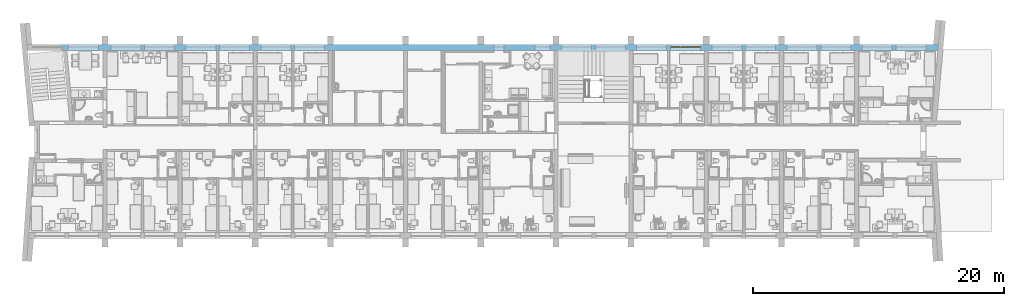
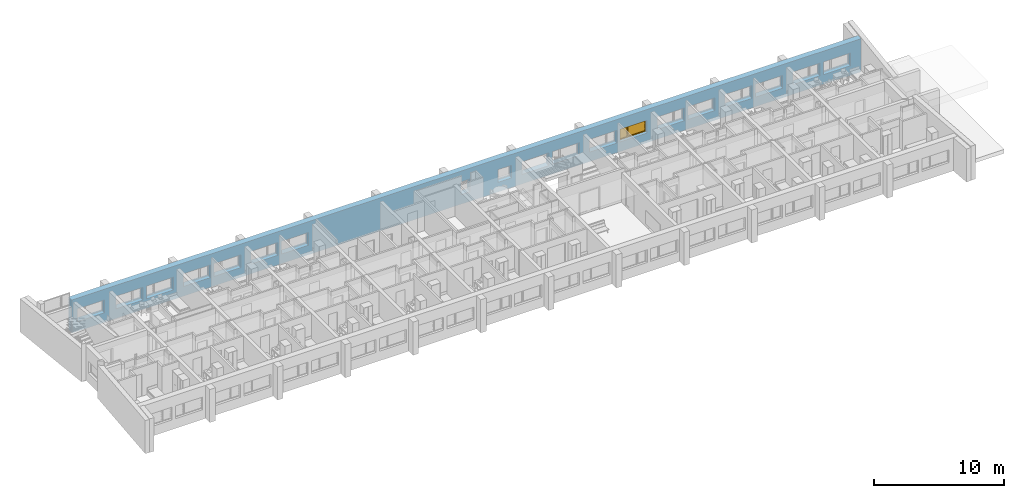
# One storey, part 25 of 172: 1 window, 19 openings, plus 1 element that does not belong to this part.
"""IFC2X3 building model written with IfcOpenShell, lengths in millimetres."""

from ifc_helpers import new_model, entity, si_unit, converted_unit, money_unit, direction, frame, origin_with_axes, place, context, subcontext, project, spatial, polyline, outline, extrude, open_shell, faceted_brep, surface_model, source, transform, mapped, material, material_list, layer, layer_set, layer_usage, type_object, element, fill, save


model = new_model("IFC2X3")

# Units and contexts
model_context = context("Model", 3, precision=1e-05, world=origin_with_axes(), true_north=direction((0.0, 1.0)))
body_context = subcontext(model_context, "Body", "Model", "MODEL_VIEW")
ifc_project = project(units=[si_unit("LENGTHUNIT", "METRE", prefix="MILLI"), si_unit("AREAUNIT", "SQUARE_METRE"), si_unit("VOLUMEUNIT", "CUBIC_METRE"), converted_unit("PLANEANGLEUNIT", "DEGREE", entity("IfcPlaneAngleMeasure", 0.0174532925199), si_unit("PLANEANGLEUNIT", "RADIAN"), dimensions=[0, 0, 0, 0, 0, 0, 0]), si_unit("SOLIDANGLEUNIT", "STERADIAN"), money_unit("USD"), converted_unit("TIMEUNIT", "Year", entity("IfcTimeMeasure", 31556926.0), si_unit("TIMEUNIT", "SECOND"), dimensions=[0, 0, 0, 0, 0, 0, 0]), si_unit("MASSUNIT", "GRAM"), si_unit("THERMODYNAMICTEMPERATUREUNIT", "DEGREE_CELSIUS"), si_unit("LUMINOUSINTENSITYUNIT", "LUMEN")], contexts=[model_context])

# Site, building, storey
site_placement = place(None, origin_with_axes())
site = spatial("IfcSite", under=ifc_project, at=site_placement, Name="Site", CompositionType="ELEMENT")
building_placement = place(site_placement, origin_with_axes())
building = spatial("IfcBuilding", under=site, at=building_placement, Name="Building", CompositionType="ELEMENT")
storey_placement = place(building_placement, frame((0.0, 0.0, 3200.0), z_axis=(0.0, 0.0, 1.0), x_axis=(1.0, 0.0, 0.0)))
storey = spatial("IfcBuildingStorey", under=building, at=storey_placement, Name="3KORRUS", CompositionType="ELEMENT", Elevation=3200.0)

# Wall, openings, window
ifc_material_1 = material(Name="Olemasolevad seinad tellis, uus viimistlus")
ifc_layer = layer(ifc_material_1, 500.0, ventilated="UNKNOWN")
ifc_layer_set = layer_set([ifc_layer], Name="Olemasolevad seinad tellis, uus viimistlus 500")
ifc_layer_usage = layer_usage(ifc_layer_set, "AXIS2", "POSITIVE", -100.0)
wall_type = type_object("IfcWallType", Name="Olemasolevad seinad tellis, uus viimistlus 500", PredefinedType="NOTDEFINED")
wall_placement = place(storey_placement, frame((-51569.3388124, -5039.6041088, 0.0), z_axis=(0.0, 0.0, 1.0), x_axis=(1.0, 0.0, 0.0)))
wall = element("IfcWallStandardCase", 1, at=wall_placement, inside=storey, type_object=wall_type, material=ifc_layer_usage, Name="VS1", ObjectType="VS1", context=body_context, shape_type="SweptSolid", body=[
    extrude(outline(polyline([(0.0, -100.0), (69914.7195482, -100.0), (69959.6995146, 400.0), (0.0, 400.0), (0.0, -100.0)])), origin_with_axes(), (0.0, 0.0, 1.0), 3100.0),
])
opening_1_placement = place(wall_placement, frame((34879.0421091, 0.0, 900.0), z_axis=(0.0, 0.0, 1.0), x_axis=(1.0, 0.0, 0.0)))
element("IfcOpeningElement", 2, at=opening_1_placement, cuts=wall, Name="WD - 001", context=body_context, shape_type="SweptSolid", body=[
    extrude(outline(polyline([(-400.0, 1200.0), (-400.0, 0.0), (400.0, 0.0), (400.0, 1200.0), (-400.0, 1200.0)])), frame((0.0, 200.0, 0.0), z_axis=(0.0, -1.0, 0.0), x_axis=(1.0, 0.0, 0.0)), (0.0, 0.0, 1.0), 800.0),
    extrude(outline(polyline([(-400.0, 0.0), (-400.0, -1200.0), (400.0, -1200.0), (400.0, 0.0), (-400.0, 0.0)])), frame((0.0, 200.0, 0.0), z_axis=(0.0, 1.0, 0.0), x_axis=(1.0, 0.0, 0.0)), (0.0, 0.0, 1.0), 700.0),
])
opening_2_placement = place(wall_placement, frame((38352.6323068, 0.0, 900.0), z_axis=(0.0, 0.0, 1.0), x_axis=(1.0, 0.0, 0.0)))
element("IfcOpeningElement", 3, at=opening_2_placement, cuts=wall, Name="A3", context=body_context, shape_type="SweptSolid", body=[
    extrude(outline(polyline([(-600.0, 1200.0), (-600.0, 0.0), (600.0, 0.0), (600.0, 1200.0), (-600.0, 1200.0)])), frame((0.0, 200.0, 0.0), z_axis=(0.0, -1.0, 0.0), x_axis=(1.0, 0.0, 0.0)), (0.0, 0.0, 1.0), 800.0),
    extrude(outline(polyline([(-600.0, 0.0), (-600.0, -1200.0), (600.0, -1200.0), (600.0, 0.0), (-600.0, 0.0)])), frame((0.0, 200.0, 0.0), z_axis=(0.0, 1.0, 0.0), x_axis=(1.0, 0.0, 0.0)), (0.0, 0.0, 1.0), 700.0),
])
opening_3_placement = place(wall_placement, frame((1700.0, 0.0, 900.0), z_axis=(0.0, 0.0, 1.0), x_axis=(1.0, 0.0, 0.0)))
element("IfcOpeningElement", 4, at=opening_3_placement, cuts=wall, Name="A1", context=body_context, shape_type="SweptSolid", body=[
    extrude(outline(polyline([(1200.0, 1200.0), (-1200.0, 1200.0), (-1200.0, 0.0), (1200.0, 0.0), (1200.0, 1200.0)])), frame((0.0, 200.0, 0.0), z_axis=(0.0, -1.0, 0.0), x_axis=(1.0, 0.0, 0.0)), (0.0, 0.0, 1.0), 800.0),
    extrude(outline(polyline([(1200.0, 0.0), (-1200.0, 0.0), (-1200.0, -1200.0), (1200.0, -1200.0), (1200.0, 0.0)])), frame((0.0, 200.0, 0.0), z_axis=(0.0, 1.0, 0.0), x_axis=(1.0, 0.0, 0.0)), (0.0, 0.0, 1.0), 700.0),
])
opening_4_placement = place(wall_placement, frame((7795.91085613, 0.0, 900.0), z_axis=(0.0, 0.0, 1.0), x_axis=(1.0, 0.0, 0.0)))
element("IfcOpeningElement", 5, at=opening_4_placement, cuts=wall, Name="A1", context=body_context, shape_type="SweptSolid", body=[
    extrude(outline(polyline([(1200.0, 1200.0), (-1200.0, 1200.0), (-1200.0, 0.0), (1200.0, 0.0), (1200.0, 1200.0)])), frame((0.0, 200.0, 0.0), z_axis=(0.0, -1.0, 0.0), x_axis=(1.0, 0.0, 0.0)), (0.0, 0.0, 1.0), 800.0),
    extrude(outline(polyline([(1200.0, 0.0), (-1200.0, 0.0), (-1200.0, -1200.0), (1200.0, -1200.0), (1200.0, 0.0)])), frame((0.0, 200.0, 0.0), z_axis=(0.0, 1.0, 0.0), x_axis=(1.0, 0.0, 0.0)), (0.0, 0.0, 1.0), 700.0),
])
opening_5_placement = place(wall_placement, frame((5095.91085613, 0.0, 900.0), z_axis=(0.0, 0.0, 1.0), x_axis=(1.0, 0.0, 0.0)))
element("IfcOpeningElement", 6, at=opening_5_placement, cuts=wall, Name="A2", context=body_context, shape_type="SweptSolid", body=[
    extrude(outline(polyline([(-1200.0, 1200.0), (-1200.0, 0.0), (1200.0, 0.0), (1200.0, 1200.0), (-1200.0, 1200.0)])), frame((0.0, 200.0, 0.0), z_axis=(0.0, -1.0, 0.0), x_axis=(1.0, 0.0, 0.0)), (0.0, 0.0, 1.0), 800.0),
    extrude(outline(polyline([(-1200.0, 0.0), (-1200.0, -1200.0), (1200.0, -1200.0), (1200.0, 0.0), (-1200.0, 0.0)])), frame((0.0, 200.0, 0.0), z_axis=(0.0, 1.0, 0.0), x_axis=(1.0, 0.0, 0.0)), (0.0, 0.0, 1.0), 700.0),
])
opening_6_placement = place(wall_placement, frame((13779.0421091, 0.0, 900.0), z_axis=(0.0, 0.0, 1.0), x_axis=(1.0, 0.0, 0.0)))
element("IfcOpeningElement", 7, at=opening_6_placement, cuts=wall, Name="A1", context=body_context, shape_type="SweptSolid", body=[
    extrude(outline(polyline([(1200.0, 1200.0), (-1200.0, 1200.0), (-1200.0, 0.0), (1200.0, 0.0), (1200.0, 1200.0)])), frame((0.0, 200.0, 0.0), z_axis=(0.0, -1.0, 0.0), x_axis=(1.0, 0.0, 0.0)), (0.0, 0.0, 1.0), 800.0),
    extrude(outline(polyline([(1200.0, 0.0), (-1200.0, 0.0), (-1200.0, -1200.0), (1200.0, -1200.0), (1200.0, 0.0)])), frame((0.0, 200.0, 0.0), z_axis=(0.0, 1.0, 0.0), x_axis=(1.0, 0.0, 0.0)), (0.0, 0.0, 1.0), 700.0),
])
opening_7_placement = place(wall_placement, frame((11079.0421091, 0.0, 900.0), z_axis=(0.0, 0.0, 1.0), x_axis=(1.0, 0.0, 0.0)))
element("IfcOpeningElement", 8, at=opening_7_placement, cuts=wall, Name="A2", context=body_context, shape_type="SweptSolid", body=[
    extrude(outline(polyline([(-1200.0, 1200.0), (-1200.0, 0.0), (1200.0, 0.0), (1200.0, 1200.0), (-1200.0, 1200.0)])), frame((0.0, 200.0, 0.0), z_axis=(0.0, -1.0, 0.0), x_axis=(1.0, 0.0, 0.0)), (0.0, 0.0, 1.0), 800.0),
    extrude(outline(polyline([(-1200.0, 0.0), (-1200.0, -1200.0), (1200.0, -1200.0), (1200.0, 0.0), (-1200.0, 0.0)])), frame((0.0, 200.0, 0.0), z_axis=(0.0, 1.0, 0.0), x_axis=(1.0, 0.0, 0.0)), (0.0, 0.0, 1.0), 700.0),
])
opening_8_placement = place(wall_placement, frame((43769.0421091, 0.0, 900.0), z_axis=(0.0, 0.0, 1.0), x_axis=(1.0, 0.0, 0.0)))
element("IfcOpeningElement", 9, at=opening_8_placement, cuts=wall, Name="A1", context=body_context, shape_type="SweptSolid", body=[
    extrude(outline(polyline([(1200.0, 1200.0), (-1200.0, 1200.0), (-1200.0, 0.0), (1200.0, 0.0), (1200.0, 1200.0)])), frame((0.0, 200.0, 0.0), z_axis=(0.0, -1.0, 0.0), x_axis=(1.0, 0.0, 0.0)), (0.0, 0.0, 1.0), 800.0),
    extrude(outline(polyline([(1200.0, 0.0), (-1200.0, 0.0), (-1200.0, -1200.0), (1200.0, -1200.0), (1200.0, 0.0)])), frame((0.0, 200.0, 0.0), z_axis=(0.0, 1.0, 0.0), x_axis=(1.0, 0.0, 0.0)), (0.0, 0.0, 1.0), 700.0),
])
opening_9_placement = place(wall_placement, frame((41069.0421091, 0.0, 900.0), z_axis=(0.0, 0.0, 1.0), x_axis=(1.0, 0.0, 0.0)))
element("IfcOpeningElement", 10, at=opening_9_placement, cuts=wall, Name="A2", context=body_context, shape_type="SweptSolid", body=[
    extrude(outline(polyline([(-1200.0, 1200.0), (-1200.0, 0.0), (1200.0, 0.0), (1200.0, 1200.0), (-1200.0, 1200.0)])), frame((0.0, 200.0, 0.0), z_axis=(0.0, -1.0, 0.0), x_axis=(1.0, 0.0, 0.0)), (0.0, 0.0, 1.0), 800.0),
    extrude(outline(polyline([(-1200.0, 0.0), (-1200.0, -1200.0), (1200.0, -1200.0), (1200.0, 0.0), (-1200.0, 0.0)])), frame((0.0, 200.0, 0.0), z_axis=(0.0, 1.0, 0.0), x_axis=(1.0, 0.0, 0.0)), (0.0, 0.0, 1.0), 700.0),
])
opening_10_placement = place(wall_placement, frame((49769.0421091, 0.0, 900.0), z_axis=(0.0, 0.0, 1.0), x_axis=(1.0, 0.0, 0.0)))
opening_10 = element("IfcOpeningElement", 11, at=opening_10_placement, cuts=wall, Name="A1", context=body_context, shape_type="SweptSolid", body=[
    extrude(outline(polyline([(1200.0, 1200.0), (-1200.0, 1200.0), (-1200.0, 0.0), (1200.0, 0.0), (1200.0, 1200.0)])), frame((0.0, 200.0, 0.0), z_axis=(0.0, -1.0, 0.0), x_axis=(1.0, 0.0, 0.0)), (0.0, 0.0, 1.0), 800.0),
    extrude(outline(polyline([(1200.0, 0.0), (-1200.0, 0.0), (-1200.0, -1200.0), (1200.0, -1200.0), (1200.0, 0.0)])), frame((0.0, 200.0, 0.0), z_axis=(0.0, 1.0, 0.0), x_axis=(1.0, 0.0, 0.0)), (0.0, 0.0, 1.0), 700.0),
])
opening_11_placement = place(wall_placement, frame((47069.0421091, 0.0, 900.0), z_axis=(0.0, 0.0, 1.0), x_axis=(1.0, 0.0, 0.0)))
element("IfcOpeningElement", 12, at=opening_11_placement, cuts=wall, Name="A2", context=body_context, shape_type="SweptSolid", body=[
    extrude(outline(polyline([(-1200.0, 1200.0), (-1200.0, 0.0), (1200.0, 0.0), (1200.0, 1200.0), (-1200.0, 1200.0)])), frame((0.0, 200.0, 0.0), z_axis=(0.0, -1.0, 0.0), x_axis=(1.0, 0.0, 0.0)), (0.0, 0.0, 1.0), 800.0),
    extrude(outline(polyline([(-1200.0, 0.0), (-1200.0, -1200.0), (1200.0, -1200.0), (1200.0, 0.0), (-1200.0, 0.0)])), frame((0.0, 200.0, 0.0), z_axis=(0.0, 1.0, 0.0), x_axis=(1.0, 0.0, 0.0)), (0.0, 0.0, 1.0), 700.0),
])
opening_12_placement = place(wall_placement, frame((55769.0421091, 0.0, 900.0), z_axis=(0.0, 0.0, 1.0), x_axis=(1.0, 0.0, 0.0)))
element("IfcOpeningElement", 13, at=opening_12_placement, cuts=wall, Name="A1", context=body_context, shape_type="SweptSolid", body=[
    extrude(outline(polyline([(1200.0, 1200.0), (-1200.0, 1200.0), (-1200.0, 0.0), (1200.0, 0.0), (1200.0, 1200.0)])), frame((0.0, 200.0, 0.0), z_axis=(0.0, -1.0, 0.0), x_axis=(1.0, 0.0, 0.0)), (0.0, 0.0, 1.0), 800.0),
    extrude(outline(polyline([(1200.0, 0.0), (-1200.0, 0.0), (-1200.0, -1200.0), (1200.0, -1200.0), (1200.0, 0.0)])), frame((0.0, 200.0, 0.0), z_axis=(0.0, 1.0, 0.0), x_axis=(1.0, 0.0, 0.0)), (0.0, 0.0, 1.0), 700.0),
])
opening_13_placement = place(wall_placement, frame((53069.0421091, 0.0, 900.0), z_axis=(0.0, 0.0, 1.0), x_axis=(1.0, 0.0, 0.0)))
element("IfcOpeningElement", 14, at=opening_13_placement, cuts=wall, Name="A2", context=body_context, shape_type="SweptSolid", body=[
    extrude(outline(polyline([(-1200.0, 1200.0), (-1200.0, 0.0), (1200.0, 0.0), (1200.0, 1200.0), (-1200.0, 1200.0)])), frame((0.0, 200.0, 0.0), z_axis=(0.0, -1.0, 0.0), x_axis=(1.0, 0.0, 0.0)), (0.0, 0.0, 1.0), 800.0),
    extrude(outline(polyline([(-1200.0, 0.0), (-1200.0, -1200.0), (1200.0, -1200.0), (1200.0, 0.0), (-1200.0, 0.0)])), frame((0.0, 200.0, 0.0), z_axis=(0.0, 1.0, 0.0), x_axis=(1.0, 0.0, 0.0)), (0.0, 0.0, 1.0), 700.0),
])
opening_14_placement = place(wall_placement, frame((61769.0421091, 0.0, 900.0), z_axis=(0.0, 0.0, 1.0), x_axis=(1.0, 0.0, 0.0)))
element("IfcOpeningElement", 15, at=opening_14_placement, cuts=wall, Name="A1", context=body_context, shape_type="SweptSolid", body=[
    extrude(outline(polyline([(1200.0, 1200.0), (-1200.0, 1200.0), (-1200.0, 0.0), (1200.0, 0.0), (1200.0, 1200.0)])), frame((0.0, 200.0, 0.0), z_axis=(0.0, -1.0, 0.0), x_axis=(1.0, 0.0, 0.0)), (0.0, 0.0, 1.0), 800.0),
    extrude(outline(polyline([(1200.0, 0.0), (-1200.0, 0.0), (-1200.0, -1200.0), (1200.0, -1200.0), (1200.0, 0.0)])), frame((0.0, 200.0, 0.0), z_axis=(0.0, 1.0, 0.0), x_axis=(1.0, 0.0, 0.0)), (0.0, 0.0, 1.0), 700.0),
])
opening_15_placement = place(wall_placement, frame((59069.0421091, 0.0, 900.0), z_axis=(0.0, 0.0, 1.0), x_axis=(1.0, 0.0, 0.0)))
element("IfcOpeningElement", 16, at=opening_15_placement, cuts=wall, Name="A2", context=body_context, shape_type="SweptSolid", body=[
    extrude(outline(polyline([(-1200.0, 1200.0), (-1200.0, 0.0), (1200.0, 0.0), (1200.0, 1200.0), (-1200.0, 1200.0)])), frame((0.0, 200.0, 0.0), z_axis=(0.0, -1.0, 0.0), x_axis=(1.0, 0.0, 0.0)), (0.0, 0.0, 1.0), 800.0),
    extrude(outline(polyline([(-1200.0, 0.0), (-1200.0, -1200.0), (1200.0, -1200.0), (1200.0, 0.0), (-1200.0, 0.0)])), frame((0.0, 200.0, 0.0), z_axis=(0.0, 1.0, 0.0), x_axis=(1.0, 0.0, 0.0)), (0.0, 0.0, 1.0), 700.0),
])
opening_16_placement = place(wall_placement, frame((67773.3244043, 0.0, 900.0), z_axis=(0.0, 0.0, 1.0), x_axis=(1.0, 0.0, 0.0)))
element("IfcOpeningElement", 17, at=opening_16_placement, cuts=wall, Name="A1", context=body_context, shape_type="SweptSolid", body=[
    extrude(outline(polyline([(1200.0, 1200.0), (-1200.0, 1200.0), (-1200.0, 0.0), (1200.0, 0.0), (1200.0, 1200.0)])), frame((0.0, 200.0, 0.0), z_axis=(0.0, -1.0, 0.0), x_axis=(1.0, 0.0, 0.0)), (0.0, 0.0, 1.0), 800.0),
    extrude(outline(polyline([(1200.0, 0.0), (-1200.0, 0.0), (-1200.0, -1200.0), (1200.0, -1200.0), (1200.0, 0.0)])), frame((0.0, 200.0, 0.0), z_axis=(0.0, 1.0, 0.0), x_axis=(1.0, 0.0, 0.0)), (0.0, 0.0, 1.0), 700.0),
])
opening_17_placement = place(wall_placement, frame((65073.3244043, 0.0, 900.0), z_axis=(0.0, 0.0, 1.0), x_axis=(1.0, 0.0, 0.0)))
element("IfcOpeningElement", 18, at=opening_17_placement, cuts=wall, Name="A2", context=body_context, shape_type="SweptSolid", body=[
    extrude(outline(polyline([(-1200.0, 1200.0), (-1200.0, 0.0), (1200.0, 0.0), (1200.0, 1200.0), (-1200.0, 1200.0)])), frame((0.0, 200.0, 0.0), z_axis=(0.0, -1.0, 0.0), x_axis=(1.0, 0.0, 0.0)), (0.0, 0.0, 1.0), 800.0),
    extrude(outline(polyline([(-1200.0, 0.0), (-1200.0, -1200.0), (1200.0, -1200.0), (1200.0, 0.0), (-1200.0, 0.0)])), frame((0.0, 200.0, 0.0), z_axis=(0.0, 1.0, 0.0), x_axis=(1.0, 0.0, 0.0)), (0.0, 0.0, 1.0), 700.0),
])
opening_18_placement = place(wall_placement, frame((19767.4765851, 0.0, 900.0), z_axis=(0.0, 0.0, 1.0), x_axis=(1.0, 0.0, 0.0)))
element("IfcOpeningElement", 19, at=opening_18_placement, cuts=wall, Name="A1", context=body_context, shape_type="SweptSolid", body=[
    extrude(outline(polyline([(1200.0, 1200.0), (-1200.0, 1200.0), (-1200.0, 0.0), (1200.0, 0.0), (1200.0, 1200.0)])), frame((0.0, 200.0, 0.0), z_axis=(0.0, -1.0, 0.0), x_axis=(1.0, 0.0, 0.0)), (0.0, 0.0, 1.0), 800.0),
    extrude(outline(polyline([(1200.0, 0.0), (-1200.0, 0.0), (-1200.0, -1200.0), (1200.0, -1200.0), (1200.0, 0.0)])), frame((0.0, 200.0, 0.0), z_axis=(0.0, 1.0, 0.0), x_axis=(1.0, 0.0, 0.0)), (0.0, 0.0, 1.0), 700.0),
])
opening_19_placement = place(wall_placement, frame((17067.4765851, 0.0, 900.0), z_axis=(0.0, 0.0, 1.0), x_axis=(1.0, 0.0, 0.0)))
element("IfcOpeningElement", 20, at=opening_19_placement, cuts=wall, Name="A2", context=body_context, shape_type="SweptSolid", body=[
    extrude(outline(polyline([(-1200.0, 1200.0), (-1200.0, 0.0), (1200.0, 0.0), (1200.0, 1200.0), (-1200.0, 1200.0)])), frame((0.0, 200.0, 0.0), z_axis=(0.0, -1.0, 0.0), x_axis=(1.0, 0.0, 0.0)), (0.0, 0.0, 1.0), 800.0),
    extrude(outline(polyline([(-1200.0, 0.0), (-1200.0, -1200.0), (1200.0, -1200.0), (1200.0, 0.0), (-1200.0, 0.0)])), frame((0.0, 200.0, 0.0), z_axis=(0.0, 1.0, 0.0), x_axis=(1.0, 0.0, 0.0)), (0.0, 0.0, 1.0), 700.0),
])
ifc_material_2 = material(Name="Background")
ifc_material_list = material_list([ifc_material_2])
window_style = type_object("IfcWindowStyle", Name="Double Window 19", ConstructionType="NOTDEFINED", OperationType="DOUBLE_PANEL_VERTICAL", ParameterTakesPrecedence=False, Sizeable=False)
shared_shape = source(origin_with_axes(), body_context, "Body", "SurfaceModel", [
    faceted_brep([(1175.0, -200.0, 1150.0), (1175.0, -225.0, 1150.0), (1150.0, -225.0, 1150.0), (1150.0, -250.0, 1150.0), (1200.0, -250.0, 1150.0), (1200.0, -200.0, 1150.0), (1175.0, -200.0, 50.0), (1175.0, -225.0, 50.0), (1150.0, -225.0, 50.0), (1150.0, -250.0, 50.0), (1200.0, -250.0, 50.0), (1200.0, -200.0, 50.0)], [[[0, 1, 2, 3, 4, 5]], [[1, 0, 6, 7]], [[8, 2, 1, 7]], [[2, 8, 9, 3]], [[4, 3, 9, 10]], [[5, 4, 10, 11]], [[6, 0, 5, 11]], [[7, 6, 11, 10, 9, 8]]]),
    faceted_brep([(-1150.0, -225.0, 1150.0), (-1175.0, -225.0, 1150.0), (-1175.0, -200.0, 1150.0), (-1200.0, -200.0, 1150.0), (-1200.0, -250.0, 1150.0), (-1150.0, -250.0, 1150.0), (-1150.0, -225.0, 50.0), (-1175.0, -225.0, 50.0), (-1175.0, -200.0, 50.0), (-1200.0, -200.0, 50.0), (-1200.0, -250.0, 50.0), (-1150.0, -250.0, 50.0)], [[[0, 1, 2, 3, 4, 5]], [[1, 0, 6, 7]], [[8, 2, 1, 7]], [[2, 8, 9, 3]], [[9, 10, 4, 3]], [[10, 11, 5, 4]], [[6, 0, 5, 11]], [[7, 6, 11, 10, 9, 8]]]),
    faceted_brep([(-350.0, -225.0, 1150.0), (-375.0, -225.0, 1150.0), (-375.0, -200.0, 1150.0), (-425.0, -200.0, 1150.0), (-425.0, -225.0, 1150.0), (-450.0, -225.0, 1150.0), (-450.0, -250.0, 1150.0), (-350.0, -250.0, 1150.0), (-350.0, -225.0, 50.0), (-375.0, -225.0, 50.0), (-375.0, -200.0, 50.0), (-425.0, -200.0, 50.0), (-425.0, -225.0, 50.0), (-450.0, -225.0, 50.0), (-450.0, -250.0, 50.0), (-350.0, -250.0, 50.0)], [[[0, 1, 2, 3, 4, 5, 6, 7]], [[1, 0, 8, 9]], [[10, 2, 1, 9]], [[2, 10, 11, 3]], [[4, 3, 11, 12]], [[13, 5, 4, 12]], [[5, 13, 14, 6]], [[14, 15, 7, 6]], [[8, 0, 7, 15]], [[9, 8, 15, 14, 13, 12, 11, 10]]]),
    faceted_brep([(-350.0, -225.0, 50.0), (-375.0, -225.0, 50.0), (-375.0, -200.0, 50.0), (-425.0, -200.0, 50.0), (-425.0, -225.0, 50.0), (-450.0, -225.0, 50.0), (-450.0, -250.0, 50.0), (-350.0, -250.0, 50.0), (1150.0, -225.0, 50.0), (1175.0, -225.0, 50.0), (1175.0, -225.0, 25.0), (-375.0, -225.0, 25.0), (-375.0, -200.0, 25.0), (1175.0, -200.0, 25.0), (1175.0, -200.0, 50.0), (1200.0, -200.0, 50.0), (1200.0, -200.0, 0.0), (-1200.0, -200.0, 0.0), (-1200.0, -200.0, 50.0), (-1175.0, -200.0, 50.0), (-1175.0, -200.0, 25.0), (-425.0, -200.0, 25.0), (-425.0, -225.0, 25.0), (-1175.0, -225.0, 50.0), (-1150.0, -225.0, 50.0), (-1175.0, -225.0, 25.0), (-1150.0, -250.0, 50.0), (1200.0, -250.0, 50.0), (1150.0, -250.0, 50.0), (-1200.0, -250.0, 50.0), (-1200.0, -250.0, 0.0), (1200.0, -250.0, 0.0)], [[[0, 1, 2, 3, 4, 5, 6, 7]], [[1, 0, 8, 9, 10, 11]], [[12, 2, 1, 11]], [[13, 14, 15, 16, 17, 18, 19, 20, 21, 3, 2, 12]], [[4, 3, 21, 22]], [[23, 24, 5, 4, 22, 25]], [[5, 24, 26, 6]], [[27, 28, 7, 6, 26, 29, 30, 31]], [[8, 0, 7, 28]], [[9, 8, 28, 27, 15, 14]], [[9, 14, 13, 10]], [[13, 12, 11, 10]], [[15, 27, 31, 16]], [[16, 31, 30, 17]], [[17, 30, 29, 18]], [[24, 23, 19, 18, 29, 26]], [[20, 19, 23, 25]], [[21, 20, 25, 22]]]),
    faceted_brep([(1175.0, -200.0, 1150.0), (1175.0, -200.0, 1175.0), (-375.0, -200.0, 1175.0), (-375.0, -200.0, 1150.0), (-425.0, -200.0, 1150.0), (-425.0, -200.0, 1175.0), (-1175.0, -200.0, 1175.0), (-1175.0, -200.0, 1150.0), (-1200.0, -200.0, 1150.0), (-1200.0, -200.0, 1200.0), (1200.0, -200.0, 1200.0), (1200.0, -200.0, 1150.0), (1175.0, -225.0, 1150.0), (1175.0, -225.0, 1175.0), (-375.0, -225.0, 1175.0), (-375.0, -225.0, 1150.0), (-350.0, -225.0, 1150.0), (-350.0, -250.0, 1150.0), (-450.0, -250.0, 1150.0), (-450.0, -225.0, 1150.0), (-425.0, -225.0, 1150.0), (-425.0, -225.0, 1175.0), (-1175.0, -225.0, 1175.0), (-1175.0, -225.0, 1150.0), (-1150.0, -225.0, 1150.0), (-1150.0, -250.0, 1150.0), (-1200.0, -250.0, 1150.0), (-1200.0, -250.0, 1200.0), (1200.0, -250.0, 1200.0), (1200.0, -250.0, 1150.0), (1150.0, -250.0, 1150.0), (1150.0, -225.0, 1150.0)], [[[0, 1, 2, 3, 4, 5, 6, 7, 8, 9, 10, 11]], [[1, 0, 12, 13]], [[2, 1, 13, 14]], [[3, 2, 14, 15]], [[15, 16, 17, 18, 19, 20, 4, 3]], [[5, 4, 20, 21]], [[6, 5, 21, 22]], [[7, 6, 22, 23]], [[23, 24, 25, 26, 8, 7]], [[8, 26, 27, 9]], [[9, 27, 28, 10]], [[10, 28, 29, 11]], [[12, 0, 11, 29, 30, 31]], [[16, 15, 14, 13, 12, 31]], [[16, 31, 30, 17]], [[18, 17, 30, 29, 28, 27, 26, 25]], [[24, 19, 18, 25]], [[24, 23, 22, 21, 20, 19]]]),
    faceted_brep([(1125.0, -225.0, 1125.0), (1175.0, -225.0, 1125.0), (1175.0, -175.0, 1125.0), (1125.0, -175.0, 1125.0), (1125.0, -225.0, 75.0), (1175.0, -225.0, 75.0), (1175.0, -175.0, 75.0), (1125.0, -175.0, 75.0)], [[[0, 1, 2, 3]], [[0, 4, 5, 1]], [[1, 5, 6, 2]], [[3, 2, 6, 7]], [[4, 0, 3, 7]], [[5, 4, 7, 6]]]),
    faceted_brep([(-325.0, -225.0, 75.0), (-375.0, -225.0, 75.0), (-375.0, -175.0, 75.0), (-325.0, -175.0, 75.0), (-325.0, -225.0, 1125.0), (-375.0, -225.0, 1125.0), (-375.0, -175.0, 1125.0), (-325.0, -175.0, 1125.0)], [[[0, 1, 2, 3]], [[0, 4, 5, 1]], [[1, 5, 6, 2]], [[3, 2, 6, 7]], [[4, 0, 3, 7]], [[5, 4, 7, 6]]]),
    faceted_brep([(-375.0, -225.0, 25.0), (-375.0, -225.0, 75.0), (-375.0, -175.0, 75.0), (-375.0, -175.0, 25.0), (1175.0, -225.0, 25.0), (1175.0, -225.0, 75.0), (1125.0, -225.0, 75.0), (-325.0, -225.0, 75.0), (-325.0, -175.0, 75.0), (1125.0, -175.0, 75.0), (1175.0, -175.0, 75.0), (1175.0, -175.0, 25.0)], [[[0, 1, 2, 3]], [[0, 4, 5, 6, 7, 1]], [[1, 7, 8, 2]], [[3, 2, 8, 9, 10, 11]], [[4, 0, 3, 11]], [[5, 4, 11, 10]], [[6, 5, 10, 9]], [[7, 6, 9, 8]]]),
    faceted_brep([(1175.0, -225.0, 1175.0), (1175.0, -225.0, 1125.0), (1175.0, -175.0, 1125.0), (1175.0, -175.0, 1175.0), (-375.0, -225.0, 1175.0), (-375.0, -225.0, 1125.0), (-325.0, -225.0, 1125.0), (1125.0, -225.0, 1125.0), (1125.0, -175.0, 1125.0), (-325.0, -175.0, 1125.0), (-375.0, -175.0, 1125.0), (-375.0, -175.0, 1175.0)], [[[0, 1, 2, 3]], [[0, 4, 5, 6, 7, 1]], [[1, 7, 8, 2]], [[3, 2, 8, 9, 10, 11]], [[4, 0, 3, 11]], [[5, 4, 11, 10]], [[6, 5, 10, 9]], [[7, 6, 9, 8]]]),
    surface_model("IfcShellBasedSurfaceModel", [(1125.0, -210.0, 75.0), (1125.0, -210.0, 1125.0), (-325.0, -210.0, 1125.0), (-325.0, -210.0, 75.0)], [open_shell([[[0, 1, 2, 3]]])]),
    surface_model("IfcShellBasedSurfaceModel", [(1125.0, -190.0, 75.0), (-325.0, -190.0, 75.0), (-325.0, -190.0, 1125.0), (1125.0, -190.0, 1125.0)], [open_shell([[[0, 1, 2, 3]]])]),
    faceted_brep([(-475.0, -225.0, 1125.0), (-425.0, -225.0, 1125.0), (-425.0, -175.0, 1125.0), (-475.0, -175.0, 1125.0), (-475.0, -225.0, 75.0), (-425.0, -225.0, 75.0), (-425.0, -175.0, 75.0), (-475.0, -175.0, 75.0)], [[[0, 1, 2, 3]], [[0, 4, 5, 1]], [[1, 5, 6, 2]], [[3, 2, 6, 7]], [[4, 0, 3, 7]], [[5, 4, 7, 6]]]),
    faceted_brep([(-1125.0, -225.0, 75.0), (-1175.0, -225.0, 75.0), (-1175.0, -175.0, 75.0), (-1125.0, -175.0, 75.0), (-1125.0, -225.0, 1125.0), (-1175.0, -225.0, 1125.0), (-1175.0, -175.0, 1125.0), (-1125.0, -175.0, 1125.0)], [[[0, 1, 2, 3]], [[0, 4, 5, 1]], [[1, 5, 6, 2]], [[3, 2, 6, 7]], [[4, 0, 3, 7]], [[5, 4, 7, 6]]]),
    faceted_brep([(-1175.0, -225.0, 25.0), (-1175.0, -225.0, 75.0), (-1175.0, -175.0, 75.0), (-1175.0, -175.0, 25.0), (-425.0, -225.0, 25.0), (-425.0, -225.0, 75.0), (-475.0, -225.0, 75.0), (-1125.0, -225.0, 75.0), (-1125.0, -175.0, 75.0), (-475.0, -175.0, 75.0), (-425.0, -175.0, 75.0), (-425.0, -175.0, 25.0)], [[[0, 1, 2, 3]], [[0, 4, 5, 6, 7, 1]], [[1, 7, 8, 2]], [[3, 2, 8, 9, 10, 11]], [[4, 0, 3, 11]], [[5, 4, 11, 10]], [[6, 5, 10, 9]], [[7, 6, 9, 8]]]),
    faceted_brep([(-425.0, -225.0, 1175.0), (-425.0, -225.0, 1125.0), (-425.0, -175.0, 1125.0), (-425.0, -175.0, 1175.0), (-1175.0, -225.0, 1175.0), (-1175.0, -225.0, 1125.0), (-1125.0, -225.0, 1125.0), (-475.0, -225.0, 1125.0), (-475.0, -175.0, 1125.0), (-1125.0, -175.0, 1125.0), (-1175.0, -175.0, 1125.0), (-1175.0, -175.0, 1175.0)], [[[0, 1, 2, 3]], [[0, 4, 5, 6, 7, 1]], [[1, 7, 8, 2]], [[3, 2, 8, 9, 10, 11]], [[4, 0, 3, 11]], [[5, 4, 11, 10]], [[6, 5, 10, 9]], [[7, 6, 9, 8]]]),
    surface_model("IfcShellBasedSurfaceModel", [(-475.0, -210.0, 75.0), (-475.0, -210.0, 1125.0), (-1125.0, -210.0, 1125.0), (-1125.0, -210.0, 75.0)], [open_shell([[[0, 1, 2, 3]]])]),
    surface_model("IfcShellBasedSurfaceModel", [(-475.0, -190.0, 75.0), (-1125.0, -190.0, 75.0), (-1125.0, -190.0, 1125.0), (-475.0, -190.0, 1125.0)], [open_shell([[[0, 1, 2, 3]]])]),
])
window_placement = place(opening_10_placement, frame((-1200.0, 0.0, 0.0), z_axis=(0.0, 0.0, 1.0), x_axis=(1.0, 0.0, 0.0)))
window = element("IfcWindow", 21, at=window_placement, inside=storey, type_object=window_style, material=ifc_material_list, Name="A1", ObjectType="A1", OverallHeight=1200.0, OverallWidth=2400.0, context=body_context, shape_type="MappedRepresentation", body=[
    mapped(shared_shape, transform((1200.0, 400.0, 0.0))),
])
fill(opening_10, window)

save(model, "model.ifc")
